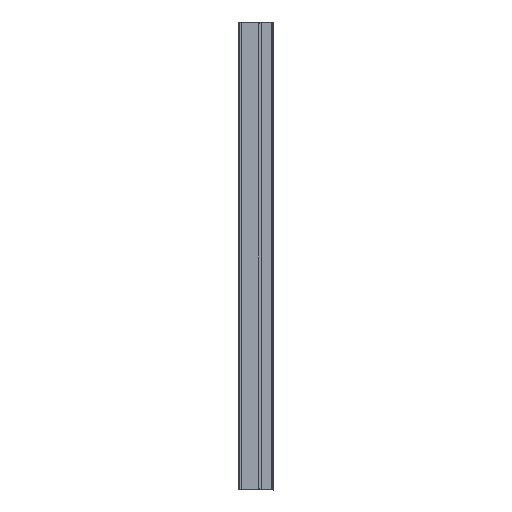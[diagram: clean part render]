
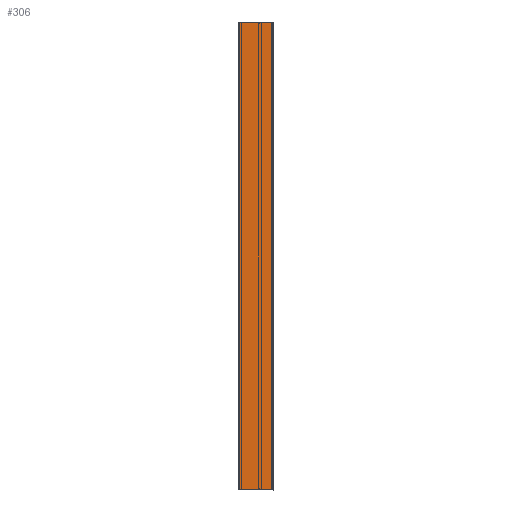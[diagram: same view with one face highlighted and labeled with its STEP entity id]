
A CAD part, left-side view. The second image highlights one B-rep face of the part: STEP entity #306.
In plain terms, the highlighted planar face has unit normal (-1, 0, 0).
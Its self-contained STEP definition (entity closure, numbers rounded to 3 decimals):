
#306=ADVANCED_FACE('',(#1181),#1183,.T.);
#1181=FACE_BOUND('',#1182,.T.);
#1182=EDGE_LOOP('',(#5026,#5027,#5028,#5029));
#1183=PLANE('',#1184);
#1184=AXIS2_PLACEMENT_3D('',#1185,#1186,#1187);
#1185=CARTESIAN_POINT('',(-17.5,4.,-528.));
#1186=DIRECTION('',(-1.,0.,0.));
#1187=DIRECTION('',(0.,-1.,0.));
#5026=ORIENTED_EDGE('',*,*,#8205,.T.);
#5027=ORIENTED_EDGE('',*,*,#8204,.T.);
#5028=ORIENTED_EDGE('',*,*,#8206,.T.);
#5029=ORIENTED_EDGE('',*,*,#8207,.F.);
#8204=EDGE_CURVE('',#9836,#9838,#9840,.T.);
#8205=EDGE_CURVE('',#9841,#9836,#9842,.F.);
#8206=EDGE_CURVE('',#9838,#9843,#9844,.F.);
#8207=EDGE_CURVE('',#9841,#9843,#9845,.T.);
#9836=VERTEX_POINT('',#12618);
#9838=VERTEX_POINT('',#12623);
#9840=LINE('',#12628,#12629);
#9841=VERTEX_POINT('',#12631);
#9842=LINE('',#12632,#12633);
#9843=VERTEX_POINT('',#12635);
#9844=LINE('',#12636,#12637);
#9845=LINE('',#12639,#12640);
#12618=CARTESIAN_POINT('',(-17.5,-73.75,-528.));
#12623=CARTESIAN_POINT('',(-17.5,-73.75,528.));
#12628=CARTESIAN_POINT('',(-17.5,-73.75,-528.));
#12629=VECTOR('',#12630,1.);
#12630=DIRECTION('',(0.,0.,1.));
#12631=CARTESIAN_POINT('',(-17.5,4.,-528.));
#12632=CARTESIAN_POINT('',(-17.5,-73.75,-528.));
#12633=VECTOR('',#12634,1.);
#12634=DIRECTION('',(0.,1.,0.));
#12635=CARTESIAN_POINT('',(-17.5,4.,528.));
#12636=CARTESIAN_POINT('',(-17.5,4.,528.));
#12637=VECTOR('',#12638,1.);
#12638=DIRECTION('',(0.,-1.,0.));
#12639=CARTESIAN_POINT('',(-17.5,4.,-528.));
#12640=VECTOR('',#12641,1.);
#12641=DIRECTION('',(0.,0.,1.));
